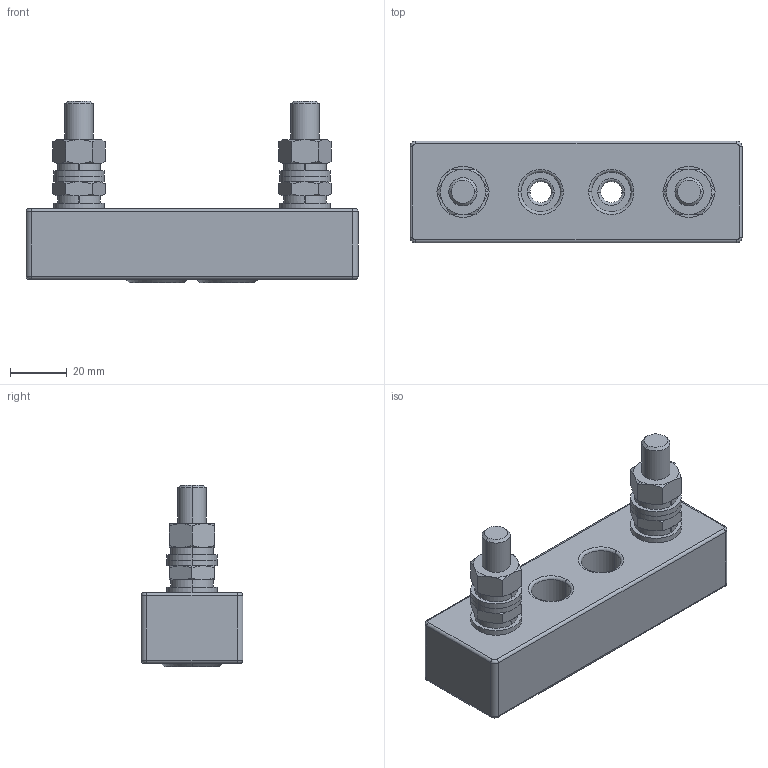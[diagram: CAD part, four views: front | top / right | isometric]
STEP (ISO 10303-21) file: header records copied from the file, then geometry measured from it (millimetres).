
FILE_DESCRIPTION (( 'STEP AP214' ), '1' );
FILE_NAME ('SP41T06.step', '2011-10-27T07:08:33', ( 'Radek Veselý' ), ( 'Siemens and Partners' ), 'SwSTEP 2.0', 'SolidWorks 2006303', '' );
FILE_SCHEMA (( 'AUTOMOTIVE_DESIGN' ));
Length unit declared in the file: millimetre
Products named in the file (1): SP41T06
Bounding box: 117.5 x 36 x 64.2 mm (x, y, z)
Volume: 103539.6 mm3; surface area: 32149 mm2
Topology: 17 solids, 17 shells, 362 faces, 798 edges, 482 vertices
Faces by surface type: cylinder 110, plane 110, cone 82, torus 60
Entity records: 14621 total; most frequent: CARTESIAN_POINT 2487, DIRECTION 1746, ORIENTED_EDGE 1596, EDGE_CURVE 798, AXIS2_PLACEMENT_3D 749, VERTEX_POINT 482, EDGE_LOOP 402, CIRCLE 386
